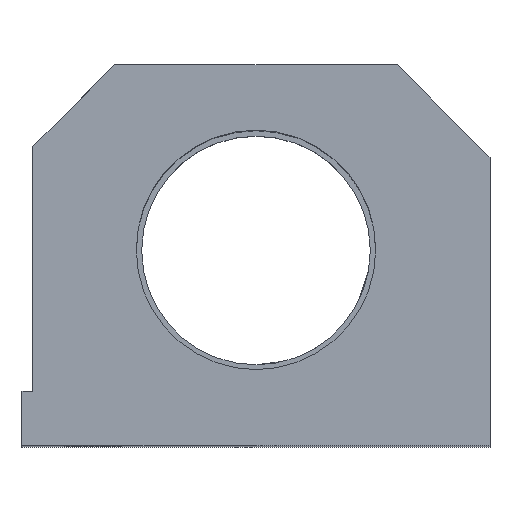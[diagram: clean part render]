
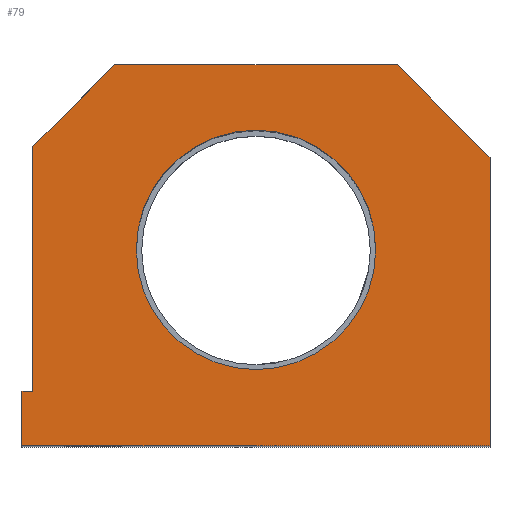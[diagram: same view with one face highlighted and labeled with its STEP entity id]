
A CAD part, top view. The second image highlights one B-rep face of the part: STEP entity #79.
In plain terms, the highlighted planar face has unit normal (0, 0, 1).
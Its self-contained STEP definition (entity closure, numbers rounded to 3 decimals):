
#24 = EDGE_CURVE ( 'NONE', #172, #181, #56, .T. ) ;
#47 = CIRCLE ( 'NONE', #587, 11. ) ;
#56 = LINE ( 'NONE', #1532, #1448 ) ;
#74 = EDGE_LOOP ( 'NONE', ( #687, #76 ) ) ;
#76 = ORIENTED_EDGE ( 'NONE', *, *, #647, .F. ) ;
#79 = ADVANCED_FACE ( 'NONE', ( #1577, #241 ), #1185, .F. ) ;
#100 = CARTESIAN_POINT ( 'NONE',  ( 11., 0.5, 38. ) ) ;
#105 = AXIS2_PLACEMENT_3D ( 'NONE', #918, #1445, #910 ) ;
#116 = EDGE_LOOP ( 'NONE', ( #1490, #1664, #1127, #133, #1683, #920, #367, #886 ) ) ;
#126 = CARTESIAN_POINT ( 'NONE',  ( -20.5, -12.5, 38. ) ) ;
#133 = ORIENTED_EDGE ( 'NONE', *, *, #1282, .T. ) ;
#135 = VECTOR ( 'NONE', #1220, 1000. ) ;
#140 = DIRECTION ( 'NONE',  ( -0.707, 0.707, 0. ) ) ;
#172 = VERTEX_POINT ( 'NONE', #911 ) ;
#181 = VERTEX_POINT ( 'NONE', #1296 ) ;
#212 = DIRECTION ( 'NONE',  ( 1., 0., 0. ) ) ;
#228 = DIRECTION ( 'NONE',  ( 1., 0., 0. ) ) ;
#241 = FACE_OUTER_BOUND ( 'NONE', #116, .T. ) ;
#304 = CARTESIAN_POINT ( 'NONE',  ( 0., 0.5, 38. ) ) ;
#324 = LINE ( 'NONE', #851, #1357 ) ;
#343 = DIRECTION ( 'NONE',  ( 0., -1., 0. ) ) ;
#367 = ORIENTED_EDGE ( 'NONE', *, *, #976, .F. ) ;
#439 = VERTEX_POINT ( 'NONE', #1152 ) ;
#476 = VECTOR ( 'NONE', #140, 1000. ) ;
#484 = CARTESIAN_POINT ( 'NONE',  ( 0., 0.5, 38. ) ) ;
#564 = DIRECTION ( 'NONE',  ( -0.707, -0.707, 0. ) ) ;
#568 = VERTEX_POINT ( 'NONE', #1611 ) ;
#587 = AXIS2_PLACEMENT_3D ( 'NONE', #304, #828, #1359 ) ;
#647 = EDGE_CURVE ( 'NONE', #1025, #1427, #1724, .T. ) ;
#687 = ORIENTED_EDGE ( 'NONE', *, *, #1182, .F. ) ;
#711 = LINE ( 'NONE', #923, #1586 ) ;
#740 = VERTEX_POINT ( 'NONE', #1543 ) ;
#756 = LINE ( 'NONE', #1196, #1595 ) ;
#779 = CARTESIAN_POINT ( 'NONE',  ( -21.5, 17.5, 38. ) ) ;
#812 = EDGE_CURVE ( 'NONE', #1542, #439, #756, .T. ) ;
#828 = DIRECTION ( 'NONE',  ( 0., 0., 1. ) ) ;
#851 = CARTESIAN_POINT ( 'NONE',  ( -21.5, 9., 38. ) ) ;
#874 = CARTESIAN_POINT ( 'NONE',  ( -13., 17.5, 38. ) ) ;
#882 = CARTESIAN_POINT ( 'NONE',  ( -11., 0.5, 38. ) ) ;
#886 = ORIENTED_EDGE ( 'NONE', *, *, #907, .T. ) ;
#907 = EDGE_CURVE ( 'NONE', #1695, #439, #324, .T. ) ;
#910 = DIRECTION ( 'NONE',  ( -1., 0., 0. ) ) ;
#911 = CARTESIAN_POINT ( 'NONE',  ( 21.5, 9., 38. ) ) ;
#918 = CARTESIAN_POINT ( 'NONE',  ( 0., 0., 38. ) ) ;
#920 = ORIENTED_EDGE ( 'NONE', *, *, #1148, .T. ) ;
#923 = CARTESIAN_POINT ( 'NONE',  ( -20.5, -12.5, 38. ) ) ;
#976 = EDGE_CURVE ( 'NONE', #1695, #1696, #1049, .T. ) ;
#1025 = VERTEX_POINT ( 'NONE', #882 ) ;
#1049 = LINE ( 'NONE', #779, #1277 ) ;
#1081 = VECTOR ( 'NONE', #1529, 1000. ) ;
#1101 = AXIS2_PLACEMENT_3D ( 'NONE', #484, #1669, #212 ) ;
#1108 = CARTESIAN_POINT ( 'NONE',  ( -21.5, -17.5, 38. ) ) ;
#1110 = EDGE_CURVE ( 'NONE', #740, #568, #1625, .T. ) ;
#1127 = ORIENTED_EDGE ( 'NONE', *, *, #1110, .T. ) ;
#1148 = EDGE_CURVE ( 'NONE', #172, #1696, #1333, .T. ) ;
#1152 = CARTESIAN_POINT ( 'NONE',  ( -20.5, 10., 38. ) ) ;
#1170 = DIRECTION ( 'NONE',  ( -1., 0., 0. ) ) ;
#1182 = EDGE_CURVE ( 'NONE', #1427, #1025, #47, .T. ) ;
#1185 = PLANE ( 'NONE',  #105 ) ;
#1196 = CARTESIAN_POINT ( 'NONE',  ( -20.5, -12.5, 38. ) ) ;
#1220 = DIRECTION ( 'NONE',  ( 0., -1., 0. ) ) ;
#1250 = LINE ( 'NONE', #1108, #1081 ) ;
#1277 = VECTOR ( 'NONE', #228, 1000. ) ;
#1282 = EDGE_CURVE ( 'NONE', #568, #181, #1250, .T. ) ;
#1296 = CARTESIAN_POINT ( 'NONE',  ( 21.5, -17.5, 38. ) ) ;
#1333 = LINE ( 'NONE', #1597, #476 ) ;
#1357 = VECTOR ( 'NONE', #564, 1000. ) ;
#1359 = DIRECTION ( 'NONE',  ( 1., 0., 0. ) ) ;
#1401 = EDGE_CURVE ( 'NONE', #1542, #740, #711, .T. ) ;
#1427 = VERTEX_POINT ( 'NONE', #100 ) ;
#1445 = DIRECTION ( 'NONE',  ( 0., 0., -1. ) ) ;
#1448 = VECTOR ( 'NONE', #343, 1000. ) ;
#1465 = CARTESIAN_POINT ( 'NONE',  ( -21.5, 17.5, 38. ) ) ;
#1466 = DIRECTION ( 'NONE',  ( 0., 1., 0. ) ) ;
#1490 = ORIENTED_EDGE ( 'NONE', *, *, #812, .F. ) ;
#1529 = DIRECTION ( 'NONE',  ( 1., 0., 0. ) ) ;
#1532 = CARTESIAN_POINT ( 'NONE',  ( 21.5, 17.5, 38. ) ) ;
#1542 = VERTEX_POINT ( 'NONE', #126 ) ;
#1543 = CARTESIAN_POINT ( 'NONE',  ( -21.5, -12.5, 38. ) ) ;
#1561 = CARTESIAN_POINT ( 'NONE',  ( 13., 17.5, 38. ) ) ;
#1577 = FACE_BOUND ( 'NONE', #74, .T. ) ;
#1586 = VECTOR ( 'NONE', #1170, 1000. ) ;
#1595 = VECTOR ( 'NONE', #1466, 1000. ) ;
#1597 = CARTESIAN_POINT ( 'NONE',  ( 13., 17.5, 38. ) ) ;
#1611 = CARTESIAN_POINT ( 'NONE',  ( -21.5, -17.5, 38. ) ) ;
#1625 = LINE ( 'NONE', #1465, #135 ) ;
#1664 = ORIENTED_EDGE ( 'NONE', *, *, #1401, .T. ) ;
#1669 = DIRECTION ( 'NONE',  ( 0., 0., 1. ) ) ;
#1683 = ORIENTED_EDGE ( 'NONE', *, *, #24, .F. ) ;
#1695 = VERTEX_POINT ( 'NONE', #874 ) ;
#1696 = VERTEX_POINT ( 'NONE', #1561 ) ;
#1724 = CIRCLE ( 'NONE', #1101, 11. ) ;
